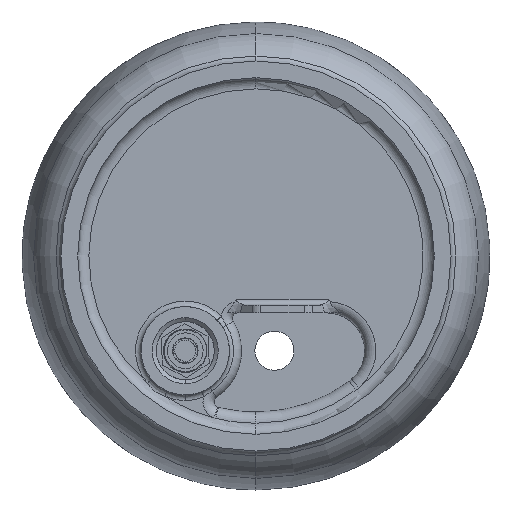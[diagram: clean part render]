
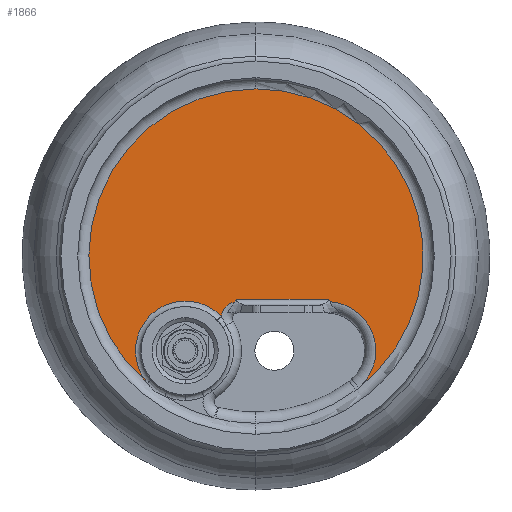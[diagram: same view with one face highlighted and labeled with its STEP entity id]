
A CAD part, front view. The second image highlights one B-rep face of the part: STEP entity #1866.
In plain terms, the highlighted planar face has unit normal (0, -1, 0).
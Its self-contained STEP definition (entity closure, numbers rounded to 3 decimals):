
#248 = AXIS2_PLACEMENT_3D ( 'NONE', #16190, #2500, #3766 ) ;
#877 = CARTESIAN_POINT ( 'NONE',  ( 66.642, -100., -41.112 ) ) ;
#1058 = EDGE_CURVE ( 'NONE', #8830, #10380, #1171, .T. ) ;
#1171 = LINE ( 'NONE', #7984, #12767 ) ;
#1239 = CARTESIAN_POINT ( 'NONE',  ( 66.012, -100., -40.45 ) ) ;
#1489 = CIRCLE ( 'NONE', #14229, 150. ) ;
#1866 = ADVANCED_FACE ( 'NONE', ( #16278 ), #11104, .T. ) ;
#2055 = ORIENTED_EDGE ( 'NONE', *, *, #3962, .T. ) ;
#2142 = CARTESIAN_POINT ( 'NONE',  ( -97.348, -100., -114.12 ) ) ;
#2243 = CARTESIAN_POINT ( 'NONE',  ( 64.904, -100., -39. ) ) ;
#2277 = VERTEX_POINT ( 'NONE', #8134 ) ;
#2460 = AXIS2_PLACEMENT_3D ( 'NONE', #12056, #3709, #2531 ) ;
#2500 = DIRECTION ( 'NONE',  ( 0., 1., 0. ) ) ;
#2531 = DIRECTION ( 'NONE',  ( 0., 0., -1. ) ) ;
#2556 = CARTESIAN_POINT ( 'NONE',  ( -18.976, -100., -40.972 ) ) ;
#2625 = B_SPLINE_CURVE_WITH_KNOTS ( 'NONE', 3,
 ( #2243, #8127, #13656, #1239, #6799, #877 ),
 .UNSPECIFIED., .F., .F.,
 ( 4, 2, 4 ),
 ( 0., 0.001, 0.003 ),
 .UNSPECIFIED. ) ;
#2665 = CIRCLE ( 'NONE', #13099, 150. ) ;
#2876 = VERTEX_POINT ( 'NONE', #5639 ) ;
#2996 = EDGE_CURVE ( 'NONE', #2277, #2876, #1489, .T. ) ;
#3005 = CARTESIAN_POINT ( 'NONE',  ( -31.082, -100., -54.296 ) ) ;
#3709 = DIRECTION ( 'NONE',  ( 0., 1., 0. ) ) ;
#3766 = DIRECTION ( 'NONE',  ( 0., 0., -1. ) ) ;
#3824 = CARTESIAN_POINT ( 'NONE',  ( -17.724, -100., -39.419 ) ) ;
#3912 = CARTESIAN_POINT ( 'NONE',  ( -18.644, -100., -40.598 ) ) ;
#3962 = EDGE_CURVE ( 'NONE', #2876, #6688, #2665, .T. ) ;
#3973 = ORIENTED_EDGE ( 'NONE', *, *, #12141, .T. ) ;
#4684 = VERTEX_POINT ( 'NONE', #3005 ) ;
#5028 = VERTEX_POINT ( 'NONE', #12441 ) ;
#5639 = CARTESIAN_POINT ( 'NONE',  ( 0., -100., 150. ) ) ;
#5916 = DIRECTION ( 'NONE',  ( 0., 0., -1. ) ) ;
#6014 = B_SPLINE_CURVE_WITH_KNOTS ( 'NONE', 3,
 ( #14795, #2556, #3912, #17625, #3824, #7912 ),
 .UNSPECIFIED., .F., .F.,
 ( 4, 2, 4 ),
 ( 0., 0.001, 0.003 ),
 .UNSPECIFIED. ) ;
#6192 = CARTESIAN_POINT ( 'NONE',  ( 64.904, -100., -39. ) ) ;
#6688 = VERTEX_POINT ( 'NONE', #2142 ) ;
#6799 = CARTESIAN_POINT ( 'NONE',  ( 66.321, -100., -40.789 ) ) ;
#7205 = DIRECTION ( 'NONE',  ( 0., -1., 0. ) ) ;
#7912 = CARTESIAN_POINT ( 'NONE',  ( -17.451, -100., -39. ) ) ;
#7984 = CARTESIAN_POINT ( 'NONE',  ( 47.531, -100., -39. ) ) ;
#8010 = VERTEX_POINT ( 'NONE', #13830 ) ;
#8059 = ORIENTED_EDGE ( 'NONE', *, *, #2996, .T. ) ;
#8127 = CARTESIAN_POINT ( 'NONE',  ( 65.159, -100., -39.38 ) ) ;
#8134 = CARTESIAN_POINT ( 'NONE',  ( 92.575, -100., -118.025 ) ) ;
#8152 = DIRECTION ( 'NONE',  ( 0., -1., 0. ) ) ;
#8252 = DIRECTION ( 'NONE',  ( 0., 0., -1. ) ) ;
#8276 = EDGE_CURVE ( 'NONE', #5028, #8830, #6014, .T. ) ;
#8830 = VERTEX_POINT ( 'NONE', #17270 ) ;
#8846 = DIRECTION ( 'NONE',  ( 0., 0., -1. ) ) ;
#9661 = CARTESIAN_POINT ( 'NONE',  ( 0., -100., 0. ) ) ;
#9849 = DIRECTION ( 'NONE',  ( 0., 1., 0. ) ) ;
#10180 = DIRECTION ( 'NONE',  ( 0., -1., 0. ) ) ;
#10380 = VERTEX_POINT ( 'NONE', #6192 ) ;
#10391 = ORIENTED_EDGE ( 'NONE', *, *, #10780, .T. ) ;
#10780 = EDGE_CURVE ( 'NONE', #10380, #8010, #2625, .T. ) ;
#10782 = DIRECTION ( 'NONE',  ( 1., 0., 0. ) ) ;
#10812 = EDGE_LOOP ( 'NONE', ( #8059, #2055, #3973, #15647, #16606, #15947, #10391, #12999 ) ) ;
#11104 = PLANE ( 'NONE',  #14789 ) ;
#11198 = DIRECTION ( 'NONE',  ( 0., 0., -1. ) ) ;
#12056 = CARTESIAN_POINT ( 'NONE',  ( -63.5, -100., -85. ) ) ;
#12141 = EDGE_CURVE ( 'NONE', #6688, #4684, #15208, .T. ) ;
#12441 = CARTESIAN_POINT ( 'NONE',  ( -19.321, -100., -41.333 ) ) ;
#12767 = VECTOR ( 'NONE', #10782, 1000. ) ;
#12999 = ORIENTED_EDGE ( 'NONE', *, *, #16340, .T. ) ;
#13099 = AXIS2_PLACEMENT_3D ( 'NONE', #13948, #8152, #8252 ) ;
#13418 = AXIS2_PLACEMENT_3D ( 'NONE', #16285, #9849, #8846 ) ;
#13656 = CARTESIAN_POINT ( 'NONE',  ( 65.432, -100., -39.745 ) ) ;
#13830 = CARTESIAN_POINT ( 'NONE',  ( 66.642, -100., -41.112 ) ) ;
#13948 = CARTESIAN_POINT ( 'NONE',  ( 0., -100., 0. ) ) ;
#14075 = CARTESIAN_POINT ( 'NONE',  ( 0., -100., 0. ) ) ;
#14229 = AXIS2_PLACEMENT_3D ( 'NONE', #14075, #7205, #5916 ) ;
#14687 = EDGE_CURVE ( 'NONE', #4684, #5028, #15470, .T. ) ;
#14789 = AXIS2_PLACEMENT_3D ( 'NONE', #9661, #10180, #11198 ) ;
#14795 = CARTESIAN_POINT ( 'NONE',  ( -19.321, -100., -41.333 ) ) ;
#15208 = CIRCLE ( 'NONE', #2460, 44.651 ) ;
#15470 = CIRCLE ( 'NONE', #13418, 15. ) ;
#15647 = ORIENTED_EDGE ( 'NONE', *, *, #14687, .T. ) ;
#15947 = ORIENTED_EDGE ( 'NONE', *, *, #1058, .T. ) ;
#16190 = CARTESIAN_POINT ( 'NONE',  ( 63.5, -100., -85. ) ) ;
#16278 = FACE_OUTER_BOUND ( 'NONE', #10812, .T. ) ;
#16285 = CARTESIAN_POINT ( 'NONE',  ( -16.179, -100., -56. ) ) ;
#16340 = EDGE_CURVE ( 'NONE', #8010, #2277, #17040, .T. ) ;
#16606 = ORIENTED_EDGE ( 'NONE', *, *, #8276, .T. ) ;
#17040 = CIRCLE ( 'NONE', #248, 44. ) ;
#17270 = CARTESIAN_POINT ( 'NONE',  ( -17.451, -100., -39. ) ) ;
#17625 = CARTESIAN_POINT ( 'NONE',  ( -18.018, -100., -39.821 ) ) ;
